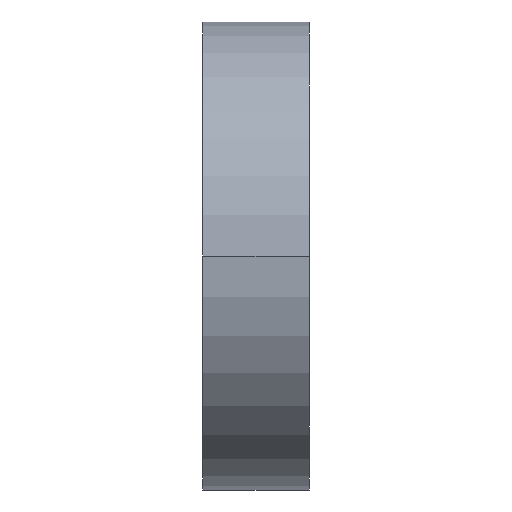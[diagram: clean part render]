
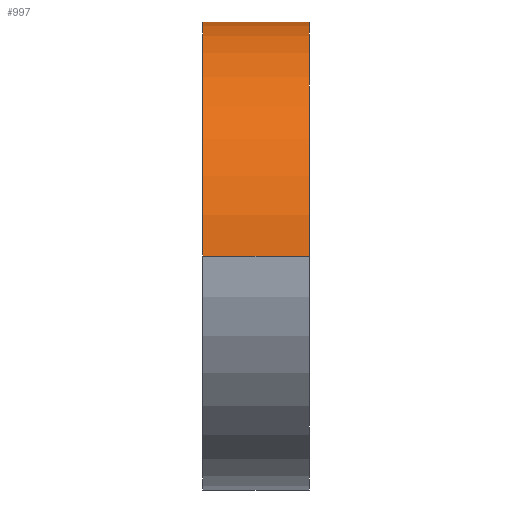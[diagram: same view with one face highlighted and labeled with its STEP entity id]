
A CAD part, left-side view. The second image highlights one B-rep face of the part: STEP entity #997.
In plain terms, the highlighted cylindrical face has radius 17.5 mm (diameter 35 mm), a partial arc.
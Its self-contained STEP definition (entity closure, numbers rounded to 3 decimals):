
#19=CARTESIAN_POINT('',(0.,1.,0.));
#20=DIRECTION('',(0.,-1.,0.));
#21=DIRECTION('',(1.,0.,0.));
#22=AXIS2_PLACEMENT_3D('',#19,#20,#21);
#24=CARTESIAN_POINT('',(0.,0.,0.));
#25=DIRECTION('',(0.,-1.,0.));
#26=DIRECTION('',(1.,0.,0.));
#27=AXIS2_PLACEMENT_3D('',#24,#25,#26);
#29=CARTESIAN_POINT('',(0.,3.,0.));
#30=DIRECTION('',(0.,-1.,0.));
#31=DIRECTION('',(1.,0.,0.));
#32=AXIS2_PLACEMENT_3D('',#29,#30,#31);
#34=DIRECTION('',(0.,-1.,0.));
#35=VECTOR('',#34,2.);
#36=CARTESIAN_POINT('',(17.321,3.,2.5));
#37=LINE('',#36,#35);
#412=DIRECTION('',(0.,1.,0.));
#413=VECTOR('',#412,5.);
#414=CARTESIAN_POINT('',(17.5,3.,0.));
#415=LINE('',#414,#413);
#416=DIRECTION('',(0.,1.,0.));
#417=VECTOR('',#416,8.);
#418=CARTESIAN_POINT('',(-17.5,0.,0.));
#419=LINE('',#418,#417);
#425=DIRECTION('',(0.,1.,0.));
#426=VECTOR('',#425,1.);
#427=CARTESIAN_POINT('',(17.5,0.,0.));
#428=LINE('',#427,#426);
#434=CARTESIAN_POINT('',(0.,8.,0.));
#435=DIRECTION('',(0.,-1.,0.));
#436=DIRECTION('',(1.,0.,0.));
#437=AXIS2_PLACEMENT_3D('',#434,#435,#436);
#817=CARTESIAN_POINT('',(-17.5,0.,0.));
#818=CARTESIAN_POINT('',(-17.5,8.,0.));
#819=VERTEX_POINT('',#817);
#820=VERTEX_POINT('',#818);
#825=CARTESIAN_POINT('',(17.5,0.,0.));
#826=VERTEX_POINT('',#825);
#827=CARTESIAN_POINT('',(17.5,8.,0.));
#828=VERTEX_POINT('',#827);
#845=CARTESIAN_POINT('',(17.5,1.,0.));
#846=CARTESIAN_POINT('',(17.321,1.,2.5));
#847=VERTEX_POINT('',#845);
#848=VERTEX_POINT('',#846);
#849=CARTESIAN_POINT('',(17.5,3.,0.));
#850=CARTESIAN_POINT('',(17.321,3.,2.5));
#851=VERTEX_POINT('',#849);
#852=VERTEX_POINT('',#850);
#975=CARTESIAN_POINT('',(0.,8.4,0.));
#976=DIRECTION('',(0.,-1.,0.));
#977=DIRECTION('',(-1.,0.,0.));
#978=AXIS2_PLACEMENT_3D('',#975,#976,#977);
#979=CYLINDRICAL_SURFACE('',#978,17.5);
#981=ORIENTED_EDGE('',*,*,#980,.F.);
#983=ORIENTED_EDGE('',*,*,#982,.F.);
#984=ORIENTED_EDGE('',*,*,#958,.T.);
#986=ORIENTED_EDGE('',*,*,#985,.T.);
#988=ORIENTED_EDGE('',*,*,#987,.F.);
#990=ORIENTED_EDGE('',*,*,#989,.F.);
#992=ORIENTED_EDGE('',*,*,#991,.T.);
#994=ORIENTED_EDGE('',*,*,#993,.T.);
#995=EDGE_LOOP('',(#981,#983,#984,#986,#988,#990,#992,#994));
#996=FACE_OUTER_BOUND('',#995,.F.);
#997=ADVANCED_FACE('',(#996),#979,.T.);
#23=CIRCLE('',#22,17.5);
#28=CIRCLE('',#27,17.5);
#33=CIRCLE('',#32,17.5);
#438=CIRCLE('',#437,17.5);
#958=EDGE_CURVE('',#826,#819,#28,.T.);
#980=EDGE_CURVE('',#847,#848,#23,.T.);
#982=EDGE_CURVE('',#826,#847,#428,.T.);
#985=EDGE_CURVE('',#819,#820,#419,.T.);
#987=EDGE_CURVE('',#828,#820,#438,.T.);
#989=EDGE_CURVE('',#851,#828,#415,.T.);
#991=EDGE_CURVE('',#851,#852,#33,.T.);
#993=EDGE_CURVE('',#852,#848,#37,.T.);
